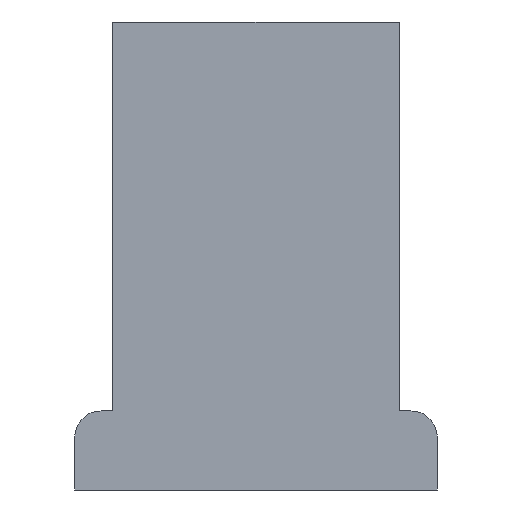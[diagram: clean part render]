
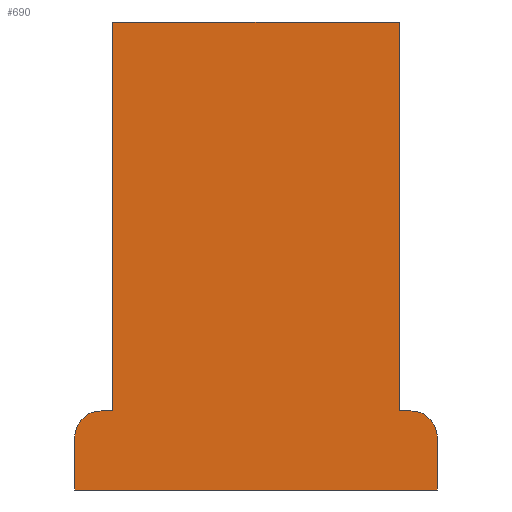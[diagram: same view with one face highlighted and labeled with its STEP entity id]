
A CAD part, front view. The second image highlights one B-rep face of the part: STEP entity #690.
In plain terms, the highlighted planar face has unit normal (0, -1, 0).
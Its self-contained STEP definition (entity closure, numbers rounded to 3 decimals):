
#3=DIRECTION('',(1.,0.,0.));
#4=VECTOR('',#3,11.049);
#5=CARTESIAN_POINT('',(-5.525,-2.502,0.));
#6=LINE('',#5,#4);
#7=DIRECTION('',(0.,0.,-1.));
#8=VECTOR('',#7,14.986);
#9=CARTESIAN_POINT('',(5.525,-2.502,0.));
#10=LINE('',#9,#8);
#11=DIRECTION('',(1.,0.,0.));
#12=VECTOR('',#11,0.445);
#13=CARTESIAN_POINT('',(5.525,-2.502,-14.986));
#14=LINE('',#13,#12);
#15=CARTESIAN_POINT('',(5.969,-2.502,-16.002));
#16=DIRECTION('',(0.,1.,0.));
#17=DIRECTION('',(0.,0.,1.));
#18=AXIS2_PLACEMENT_3D('',#15,#16,#17);
#20=DIRECTION('',(0.,0.,-1.));
#21=VECTOR('',#20,2.032);
#22=CARTESIAN_POINT('',(6.985,-2.502,-16.002));
#23=LINE('',#22,#21);
#24=DIRECTION('',(-1.,0.,0.));
#25=VECTOR('',#24,13.97);
#26=CARTESIAN_POINT('',(6.985,-2.502,-18.034));
#27=LINE('',#26,#25);
#28=DIRECTION('',(0.,0.,1.));
#29=VECTOR('',#28,2.032);
#30=CARTESIAN_POINT('',(-6.985,-2.502,-18.034));
#31=LINE('',#30,#29);
#32=CARTESIAN_POINT('',(-5.969,-2.502,-16.002));
#33=DIRECTION('',(0.,1.,0.));
#34=DIRECTION('',(-1.,0.,0.));
#35=AXIS2_PLACEMENT_3D('',#32,#33,#34);
#37=DIRECTION('',(1.,0.,0.));
#38=VECTOR('',#37,0.445);
#39=CARTESIAN_POINT('',(-5.969,-2.502,-14.986));
#40=LINE('',#39,#38);
#41=DIRECTION('',(0.,0.,1.));
#42=VECTOR('',#41,14.986);
#43=CARTESIAN_POINT('',(-5.525,-2.502,-14.986));
#44=LINE('',#43,#42);
#503=CARTESIAN_POINT('',(-5.525,-2.502,0.));
#504=CARTESIAN_POINT('',(5.525,-2.502,0.));
#505=VERTEX_POINT('',#503);
#506=VERTEX_POINT('',#504);
#507=CARTESIAN_POINT('',(5.525,-2.502,-14.986));
#508=VERTEX_POINT('',#507);
#509=CARTESIAN_POINT('',(5.969,-2.502,-14.986));
#510=VERTEX_POINT('',#509);
#511=CARTESIAN_POINT('',(6.985,-2.502,-16.002));
#512=VERTEX_POINT('',#511);
#513=CARTESIAN_POINT('',(6.985,-2.502,-18.034));
#514=VERTEX_POINT('',#513);
#515=CARTESIAN_POINT('',(-6.985,-2.502,-18.034));
#516=VERTEX_POINT('',#515);
#517=CARTESIAN_POINT('',(-6.985,-2.502,-16.002));
#518=VERTEX_POINT('',#517);
#519=CARTESIAN_POINT('',(-5.969,-2.502,-14.986));
#520=VERTEX_POINT('',#519);
#521=CARTESIAN_POINT('',(-5.525,-2.502,-14.986));
#522=VERTEX_POINT('',#521);
#663=CARTESIAN_POINT('',(0.,-2.502,0.));
#664=DIRECTION('',(0.,1.,0.));
#665=DIRECTION('',(1.,0.,0.));
#666=AXIS2_PLACEMENT_3D('',#663,#664,#665);
#667=PLANE('',#666);
#669=ORIENTED_EDGE('',*,*,#668,.T.);
#671=ORIENTED_EDGE('',*,*,#670,.T.);
#673=ORIENTED_EDGE('',*,*,#672,.T.);
#675=ORIENTED_EDGE('',*,*,#674,.T.);
#677=ORIENTED_EDGE('',*,*,#676,.T.);
#679=ORIENTED_EDGE('',*,*,#678,.T.);
#681=ORIENTED_EDGE('',*,*,#680,.T.);
#683=ORIENTED_EDGE('',*,*,#682,.T.);
#685=ORIENTED_EDGE('',*,*,#684,.T.);
#687=ORIENTED_EDGE('',*,*,#686,.T.);
#688=EDGE_LOOP('',(#669,#671,#673,#675,#677,#679,#681,#683,#685,#687));
#689=FACE_OUTER_BOUND('',#688,.F.);
#19=CIRCLE('',#18,1.016);
#36=CIRCLE('',#35,1.016);
#668=EDGE_CURVE('',#505,#506,#6,.T.);
#670=EDGE_CURVE('',#506,#508,#10,.T.);
#672=EDGE_CURVE('',#508,#510,#14,.T.);
#674=EDGE_CURVE('',#510,#512,#19,.T.);
#676=EDGE_CURVE('',#512,#514,#23,.T.);
#678=EDGE_CURVE('',#514,#516,#27,.T.);
#680=EDGE_CURVE('',#516,#518,#31,.T.);
#682=EDGE_CURVE('',#518,#520,#36,.T.);
#684=EDGE_CURVE('',#520,#522,#40,.T.);
#686=EDGE_CURVE('',#522,#505,#44,.T.);
#690=ADVANCED_FACE('',(#689),#667,.F.);
